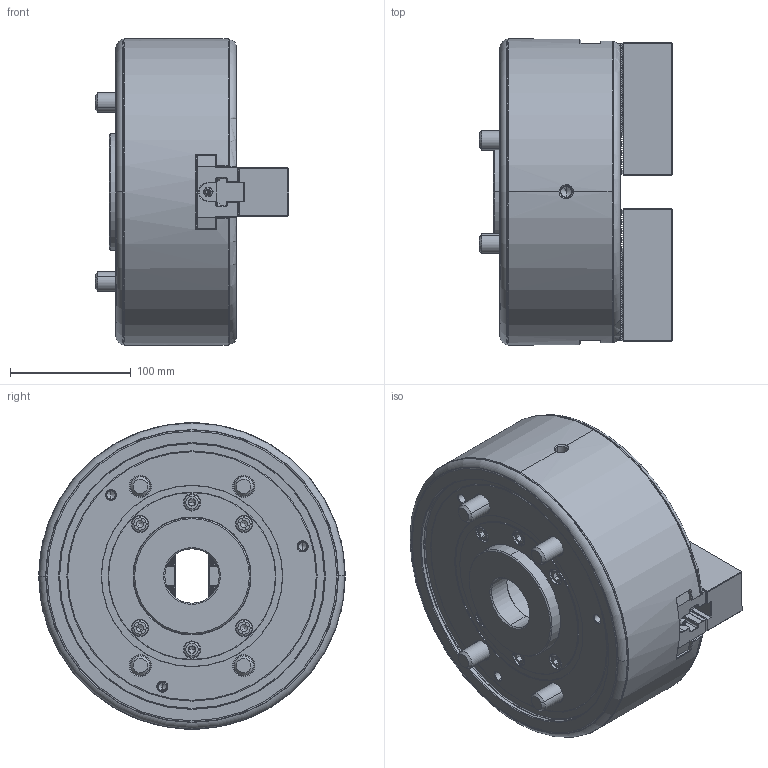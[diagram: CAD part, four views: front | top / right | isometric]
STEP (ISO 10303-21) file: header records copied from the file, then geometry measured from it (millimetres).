
FILE_DESCRIPTION (( 'STEP AP214' ), '1' );
FILE_NAME ('BRT10_OC.STEP', '2022-06-17T07:33:07', ( '' ), ( '' ), 'SwSTEP 2.0', 'SolidWorks 2020', '' );
FILE_SCHEMA (( 'AUTOMOTIVE_DESIGN' ));
Length unit declared in the file: millimetre
Products named in the file (5): 61P848284-0(SJ10B1) 61P314663-3(SJ10A1T) ソフトジョー_]SJ10A1T-ﾃﾞﾌｫﾙﾄ-Design; Bアナツキ M12×30; BR10-Nishi05 Plus-Tナット改1_61P417262-1 B-210 Tﾅｯﾄ-ﾃﾞﾌｫﾙﾄ; Part1^BR10-Nishi07 クミタテ; BRT10_OC
Assembly tree (9 placements, depth 2):
  BRT10_OC
    61P848284-0(SJ10B1) 61P314663-3(SJ10A1T) ソフトジョー_]SJ10A1T-ﾃﾞﾌｫﾙﾄ-Design  x2
    BR10-Nishi05 Plus-Tナット改1_61P417262-1 B-210 Tﾅｯﾄ-ﾃﾞﾌｫﾙﾄ  x2
    Bアナツキ M12×30  x4
    Part1^BR10-Nishi07 クミタテ
Bounding box: 160.2 x 254 x 254 mm (x, y, z)
Volume: 4727201.5 mm3; surface area: 375908.6 mm2
Topology: 9 solids, 33 shells, 3224 faces, 8718 edges, 5633 vertices
Faces by surface type: plane 2384, cylinder 389, cone 268, bspline 98, torus 75, sphere 10
Entity records: 85025 total; most frequent: CARTESIAN_POINT 19366, ORIENTED_EDGE 13986, DIRECTION 12896, EDGE_CURVE 6993, LINE 5434, VECTOR 5434, VERTEX_POINT 4534, AXIS2_PLACEMENT_3D 3731
